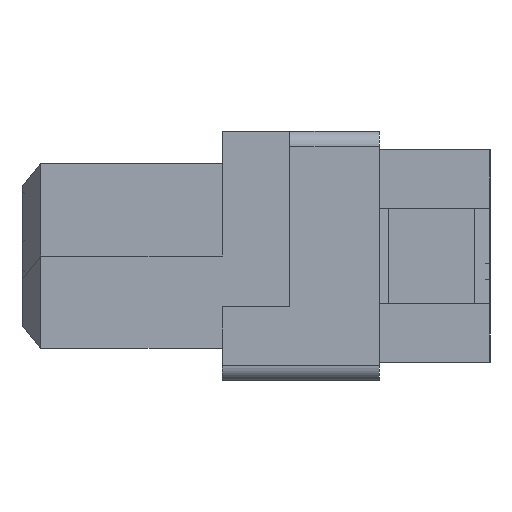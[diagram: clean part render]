
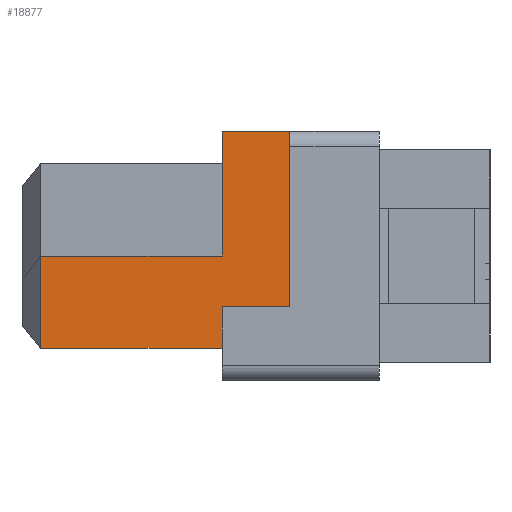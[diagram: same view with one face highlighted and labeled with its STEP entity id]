
A CAD part, left-side view. The second image highlights one B-rep face of the part: STEP entity #18877.
In plain terms, the highlighted planar face has unit normal (-1, 0, 0).
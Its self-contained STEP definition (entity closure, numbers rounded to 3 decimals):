
#4846 = VERTEX_POINT ( 'NONE', #6292 ) ;
#6057 = CARTESIAN_POINT ( 'NONE',  ( -43.264, -7.716, 3.36 ) ) ;
#6292 = CARTESIAN_POINT ( 'NONE',  ( -43.264, 3.017, 3.36 ) ) ;
#7135 = LINE ( 'NONE', #111676, #29167 ) ;
#8463 = CARTESIAN_POINT ( 'NONE',  ( -43.264, -7.716, -2.34 ) ) ;
#10199 = CARTESIAN_POINT ( 'NONE',  ( -43.264, 108.329, -3.69 ) ) ;
#10455 = VERTEX_POINT ( 'NONE', #95828 ) ;
#11528 = VERTEX_POINT ( 'NONE', #69663 ) ;
#12293 = CARTESIAN_POINT ( 'NONE',  ( -43.264, 5.217, -2.34 ) ) ;
#12588 = AXIS2_PLACEMENT_3D ( 'NONE', #68761, #50652, #116360 ) ;
#18877 = ADVANCED_FACE ( 'NONE', ( #113784 ), #69154, .F. ) ;
#19861 = ORIENTED_EDGE ( 'NONE', *, *, #112860, .T. ) ;
#21340 = VECTOR ( 'NONE', #88695, 1000. ) ;
#25479 = VECTOR ( 'NONE', #29725, 1000. ) ;
#29167 = VECTOR ( 'NONE', #36576, 1000. ) ;
#29351 = CARTESIAN_POINT ( 'NONE',  ( -43.264, 3.017, -2.34 ) ) ;
#29725 = DIRECTION ( 'NONE',  ( 0., 0., 1. ) ) ;
#35420 = CARTESIAN_POINT ( 'NONE',  ( -43.264, 5.217, -0.69 ) ) ;
#36576 = DIRECTION ( 'NONE',  ( 0., 0., 1. ) ) ;
#38257 = VECTOR ( 'NONE', #77844, 1000. ) ;
#38594 = VERTEX_POINT ( 'NONE', #63449 ) ;
#39769 = EDGE_CURVE ( 'NONE', #92888, #10455, #97320, .T. ) ;
#40108 = LINE ( 'NONE', #8463, #65085 ) ;
#42937 = VERTEX_POINT ( 'NONE', #77817 ) ;
#48462 = EDGE_CURVE ( 'NONE', #38594, #90939, #107273, .T. ) ;
#48751 = VECTOR ( 'NONE', #52777, 1000. ) ;
#50288 = VECTOR ( 'NONE', #74135, 1000. ) ;
#50652 = DIRECTION ( 'NONE',  ( 1., 0., 0. ) ) ;
#52777 = DIRECTION ( 'NONE',  ( 0., 1., 0. ) ) ;
#57342 = DIRECTION ( 'NONE',  ( 0., -1., 0. ) ) ;
#63449 = CARTESIAN_POINT ( 'NONE',  ( -43.264, 5.217, 3.36 ) ) ;
#64217 = ORIENTED_EDGE ( 'NONE', *, *, #109185, .F. ) ;
#64448 = ORIENTED_EDGE ( 'NONE', *, *, #95618, .T. ) ;
#64859 = ORIENTED_EDGE ( 'NONE', *, *, #48462, .T. ) ;
#65085 = VECTOR ( 'NONE', #92545, 1000. ) ;
#65180 = CARTESIAN_POINT ( 'NONE',  ( -43.264, 11.108, -3.69 ) ) ;
#66627 = ORIENTED_EDGE ( 'NONE', *, *, #79332, .T. ) ;
#68270 = LINE ( 'NONE', #99005, #21340 ) ;
#68761 = CARTESIAN_POINT ( 'NONE',  ( -43.264, 108.329, -3.69 ) ) ;
#69154 = PLANE ( 'NONE',  #12588 ) ;
#69226 = VERTEX_POINT ( 'NONE', #29351 ) ;
#69663 = CARTESIAN_POINT ( 'NONE',  ( -43.264, 5.217, -3.69 ) ) ;
#74135 = DIRECTION ( 'NONE',  ( 0., 0., -1. ) ) ;
#77817 = CARTESIAN_POINT ( 'NONE',  ( -43.264, 5.217, -2.34 ) ) ;
#77844 = DIRECTION ( 'NONE',  ( 0., 0., -1. ) ) ;
#78263 = LINE ( 'NONE', #104431, #25479 ) ;
#79332 = EDGE_CURVE ( 'NONE', #4846, #38594, #98741, .T. ) ;
#81656 = EDGE_CURVE ( 'NONE', #69226, #4846, #7135, .T. ) ;
#82973 = ORIENTED_EDGE ( 'NONE', *, *, #81656, .T. ) ;
#88695 = DIRECTION ( 'NONE',  ( 0., -1., 0. ) ) ;
#90939 = VERTEX_POINT ( 'NONE', #35420 ) ;
#92545 = DIRECTION ( 'NONE',  ( 0., 1., 0. ) ) ;
#92888 = VERTEX_POINT ( 'NONE', #113530 ) ;
#95618 = EDGE_CURVE ( 'NONE', #10455, #11528, #102220, .T. ) ;
#95828 = CARTESIAN_POINT ( 'NONE',  ( -43.264, 11.108, -3.69 ) ) ;
#97320 = LINE ( 'NONE', #65180, #50288 ) ;
#98741 = LINE ( 'NONE', #6057, #48751 ) ;
#99005 = CARTESIAN_POINT ( 'NONE',  ( -43.264, 108.329, -0.69 ) ) ;
#99586 = ORIENTED_EDGE ( 'NONE', *, *, #100200, .F. ) ;
#100200 = EDGE_CURVE ( 'NONE', #69226, #42937, #40108, .T. ) ;
#102220 = LINE ( 'NONE', #10199, #121260 ) ;
#104431 = CARTESIAN_POINT ( 'NONE',  ( -43.264, 5.217, -3.69 ) ) ;
#107273 = LINE ( 'NONE', #12293, #38257 ) ;
#109185 = EDGE_CURVE ( 'NONE', #92888, #90939, #68270, .T. ) ;
#111187 = ORIENTED_EDGE ( 'NONE', *, *, #39769, .T. ) ;
#111676 = CARTESIAN_POINT ( 'NONE',  ( -43.264, 3.017, -2.34 ) ) ;
#111898 = EDGE_LOOP ( 'NONE', ( #64217, #111187, #64448, #19861, #99586, #82973, #66627, #64859 ) ) ;
#112860 = EDGE_CURVE ( 'NONE', #11528, #42937, #78263, .T. ) ;
#113530 = CARTESIAN_POINT ( 'NONE',  ( -43.264, 11.108, -0.69 ) ) ;
#113784 = FACE_OUTER_BOUND ( 'NONE', #111898, .T. ) ;
#116360 = DIRECTION ( 'NONE',  ( 0., 0., -1. ) ) ;
#121260 = VECTOR ( 'NONE', #57342, 1000. ) ;
